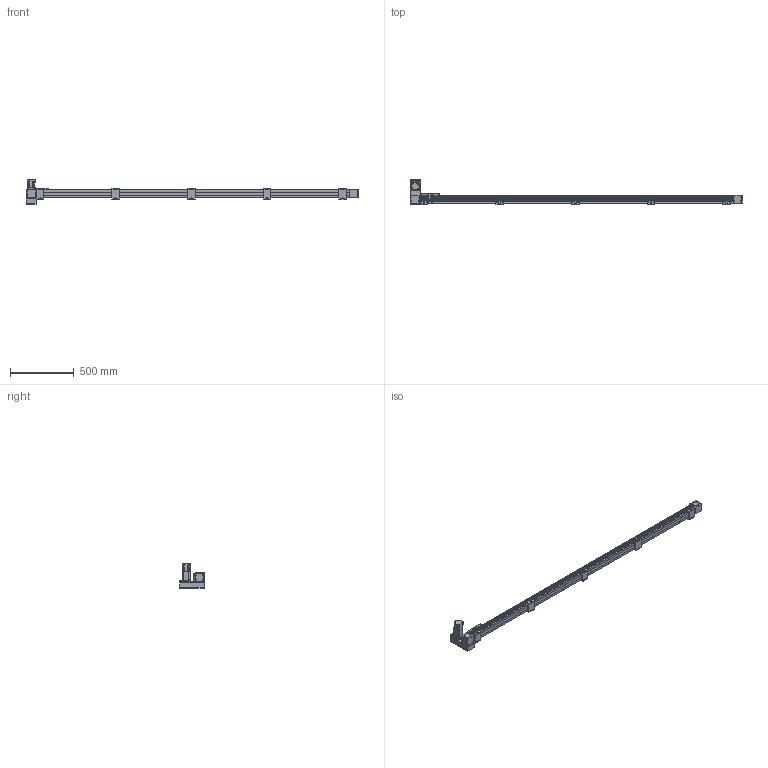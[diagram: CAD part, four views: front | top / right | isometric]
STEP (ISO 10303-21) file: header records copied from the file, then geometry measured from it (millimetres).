
FILE_DESCRIPTION(/* description */ ('STEP AP214'),/* implementation_level */ '2;1');
FILE_NAME(/* name */ 'SK60-P13-S2300-LU-T40-C1-N(0)',/* time_stamp */ '2023-04-06T04:48:39+02:00',/* author */ ('License CC BY-ND 4.0'),/* organization */ ('CADENAS'),/* preprocessor_version */ 'ST-DEVELOPER v19.3',/* originating_system */ 'PARTsolutions',/* authorisation */ ' ');
FILE_SCHEMA (('AUTOMOTIVE_DESIGN {1 0 10303 214 3 1 1}'));
Length unit declared in the file: millimetre
Products named in the file (10): SK60-P13-S2300-LU-T40-C1-N(0); PSC140-sensor; SK60-S450_seat; SK60-S450-BL-C1_slider; SK60_body3; SK60_body6; SK60-BL_body2; T40-p1; SK60-LU_fb; SK60-S2300-LU-C1_body
Assembly tree (19 placements, depth 2):
  SK60-P13-S2300-LU-T40-C1-N(0)
    PSC140-sensor  x3
    SK60-S450_seat  x5
    SK60-S450-BL-C1_slider
    SK60_body3  x3
    SK60_body6  x2
    SK60-BL_body2  x2
    T40-p1
    SK60-LU_fb
    SK60-S2300-LU-C1_body
Bounding box: 2605.5 x 201 x 189.7 mm (x, y, z)
Volume: 10041466.2 mm3; surface area: 1190005.6 mm2
Topology: 19 solids, 19 shells, 942 faces, 2342 edges, 1541 vertices
Faces by surface type: plane 596, cylinder 310, cone 34, torus 2
Full cylindrical faces by diameter (mm): 2.8 x3, 3.3 x4, 4 x2, 4.5 x30, 4.6 x3, 4.917 x28, 5 x6, 5.478 x4, 5.5 x31, 6.5 x10, 7 x2, 8 x4, 8.5 x4, 9.988 x4, 10 x20, 14 x1, 47 x3, 50 x2
Entity records: 18679 total; most frequent: DIRECTION 3190, CARTESIAN_POINT 3153, ORIENTED_EDGE 2940, EDGE_CURVE 1470, AXIS2_PLACEMENT_3D 1071, LINE 1048, VECTOR 1048, VERTEX_POINT 1034
